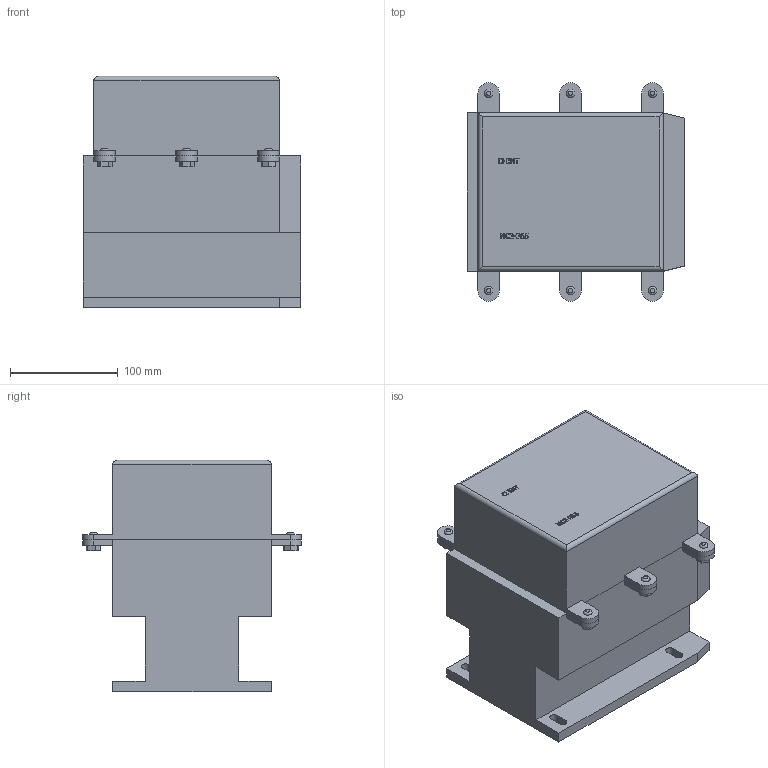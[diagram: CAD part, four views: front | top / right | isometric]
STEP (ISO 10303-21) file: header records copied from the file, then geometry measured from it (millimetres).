
FILE_DESCRIPTION(/* description */ (''),/* implementation_level */ '2;1');
FILE_NAME(/* name */ 'D:\CHINT2\NC2\NC2-265 230В 50Гц.stp',/* time_stamp */ '2017-11-12T20:52:10+03:00',/* author */ ('RSagdiev'),/* organization */ (''),/* preprocessor_version */ 'ST-DEVELOPER v16.5',/* originating_system */ 'Autodesk Inventor 2017',/* authorisation */ '');
FILE_SCHEMA (('AUTOMOTIVE_DESIGN { 1 0 10303 214 3 1 1 }'));
Length unit declared in the file: millimetre
Products named in the file (1): NC2-265 230В 50Гц
Bounding box: 202 x 203 x 215.1 mm (x, y, z)
Volume: 5350055.8 mm3; surface area: 289983.8 mm2
Topology: 14 solids, 14 shells, 338 faces, 897 edges, 600 vertices
Faces by surface type: plane 222, bspline 92, cylinder 24
Entity records: 11313 total; most frequent: CARTESIAN_POINT 3382, ORIENTED_EDGE 1794, DIRECTION 1281, EDGE_CURVE 897, LINE 651, VECTOR 651, VERTEX_POINT 600, EDGE_LOOP 359
